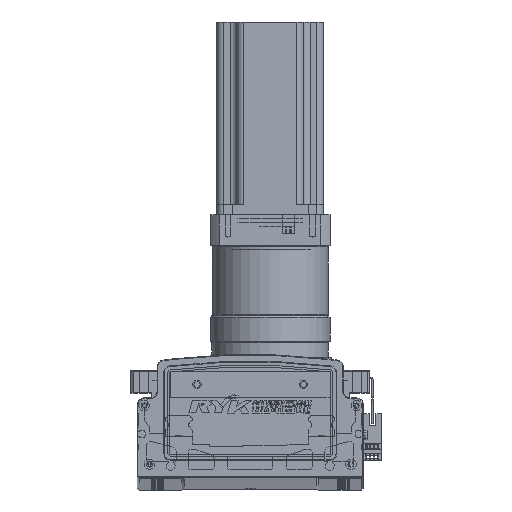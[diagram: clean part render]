
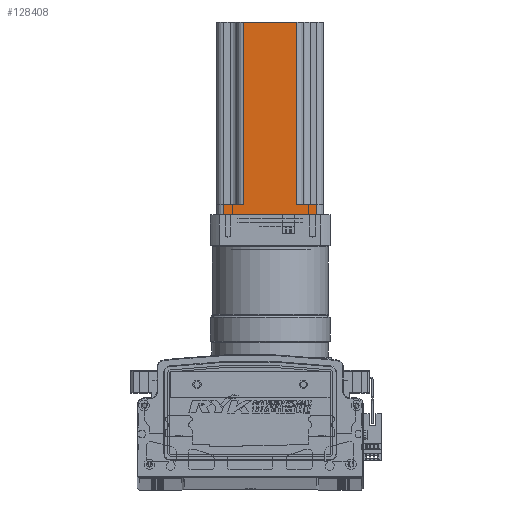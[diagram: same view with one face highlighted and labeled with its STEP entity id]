
A CAD part, top view. The second image highlights one B-rep face of the part: STEP entity #128408.
In plain terms, the highlighted planar face has unit normal (0, 0, 1) as drawn and (0, -1, 0) by its records, which use the part's own axes.
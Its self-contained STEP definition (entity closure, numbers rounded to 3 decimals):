
#11449 = VERTEX_POINT ( 'NONE', #118211 ) ;
#11697 = VERTEX_POINT ( 'NONE', #118336 ) ;
#11698 = VERTEX_POINT ( 'NONE', #118381 ) ;
#11711 = VERTEX_POINT ( 'NONE', #118412 ) ;
#11751 = VERTEX_POINT ( 'NONE', #118415 ) ;
#11757 = VERTEX_POINT ( 'NONE', #118440 ) ;
#11759 = VERTEX_POINT ( 'NONE', #118390 ) ;
#11764 = VERTEX_POINT ( 'NONE', #118441 ) ;
#22389 = EDGE_CURVE ( 'NONE', #11751, #11764, #133889, .T. ) ;
#22406 = EDGE_CURVE ( 'NONE', #11751, #11697, #112432, .T. ) ;
#22432 = EDGE_CURVE ( 'NONE', #11698, #11711, #112434, .T. ) ;
#22451 = EDGE_CURVE ( 'NONE', #11757, #11764, #112530, .T. ) ;
#22465 = EDGE_CURVE ( 'NONE', #11759, #11449, #112535, .T. ) ;
#22474 = EDGE_CURVE ( 'NONE', #11759, #11711, #112602, .T. ) ;
#22491 = EDGE_CURVE ( 'NONE', #11757, #11449, #112555, .T. ) ;
#22520 = EDGE_CURVE ( 'NONE', #11697, #11698, #112668, .T. ) ;
#43689 = FACE_OUTER_BOUND ( 'NONE', #60811, .T. ) ;
#45927 = AXIS2_PLACEMENT_3D ( 'NONE', #50218, #50166, #50190 ) ;
#50166 = DIRECTION ( 'NONE',  ( 0., 1., 0. ) ) ;
#50187 = PLANE ( 'NONE',  #45927 ) ;
#50190 = DIRECTION ( 'NONE',  ( -1., 0., 0. ) ) ;
#50218 = CARTESIAN_POINT ( 'NONE',  ( -87.587, -40.37, 145. ) ) ;
#60811 = EDGE_LOOP ( 'NONE', ( #78592, #78419, #78304, #78353, #78355, #78455, #78385, #78286 ) ) ;
#73937 = DIRECTION ( 'NONE',  ( 0., 0., 1. ) ) ;
#73950 = CARTESIAN_POINT ( 'NONE',  ( -12.587, -40.37, 145. ) ) ;
#74009 = DIRECTION ( 'NONE',  ( 0., 0., -1. ) ) ;
#74029 = CARTESIAN_POINT ( 'NONE',  ( -67.587, -40.37, 145. ) ) ;
#74049 = CARTESIAN_POINT ( 'NONE',  ( -7.587, -40.37, 8. ) ) ;
#74055 = DIRECTION ( 'NONE',  ( 0., 0., 1. ) ) ;
#74069 = DIRECTION ( 'NONE',  ( 1., 0., 0. ) ) ;
#74127 = CARTESIAN_POINT ( 'NONE',  ( -27.587, -40.37, 145. ) ) ;
#74146 = CARTESIAN_POINT ( 'NONE',  ( -87.587, -40.37, 145. ) ) ;
#74214 = DIRECTION ( 'NONE',  ( 1., 0., 0. ) ) ;
#74361 = CARTESIAN_POINT ( 'NONE',  ( -87.587, -40.37, 0. ) ) ;
#74402 = DIRECTION ( 'NONE',  ( 1., 0., 0. ) ) ;
#78286 = ORIENTED_EDGE ( 'NONE', *, *, #22451, .T. ) ;
#78304 = ORIENTED_EDGE ( 'NONE', *, *, #22520, .T. ) ;
#78353 = ORIENTED_EDGE ( 'NONE', *, *, #22432, .T. ) ;
#78355 = ORIENTED_EDGE ( 'NONE', *, *, #22474, .F. ) ;
#78385 = ORIENTED_EDGE ( 'NONE', *, *, #22491, .F. ) ;
#78419 = ORIENTED_EDGE ( 'NONE', *, *, #22406, .T. ) ;
#78455 = ORIENTED_EDGE ( 'NONE', *, *, #22465, .T. ) ;
#78592 = ORIENTED_EDGE ( 'NONE', *, *, #22389, .F. ) ;
#112420 = VECTOR ( 'NONE', #73937, 1000. ) ;
#112432 = LINE ( 'NONE', #119158, #112438 ) ;
#112434 = LINE ( 'NONE', #73950, #112420 ) ;
#112438 = VECTOR ( 'NONE', #118787, 1000. ) ;
#112496 = VECTOR ( 'NONE', #74009, 1000. ) ;
#112517 = VECTOR ( 'NONE', #74055, 1000. ) ;
#112530 = LINE ( 'NONE', #74029, #112496 ) ;
#112535 = LINE ( 'NONE', #74127, #112517 ) ;
#112555 = LINE ( 'NONE', #74146, #112568 ) ;
#112568 = VECTOR ( 'NONE', #74214, 1000. ) ;
#112573 = VECTOR ( 'NONE', #74069, 1000. ) ;
#112602 = LINE ( 'NONE', #74049, #112573 ) ;
#112637 = VECTOR ( 'NONE', #74402, 1000. ) ;
#112668 = LINE ( 'NONE', #74361, #112637 ) ;
#118211 = CARTESIAN_POINT ( 'NONE',  ( -27.587, -40.37, 145. ) ) ;
#118336 = CARTESIAN_POINT ( 'NONE',  ( -82.587, -40.37, 0. ) ) ;
#118381 = CARTESIAN_POINT ( 'NONE',  ( -12.587, -40.37, 0. ) ) ;
#118390 = CARTESIAN_POINT ( 'NONE',  ( -27.587, -40.37, 8. ) ) ;
#118412 = CARTESIAN_POINT ( 'NONE',  ( -12.587, -40.37, 8. ) ) ;
#118415 = CARTESIAN_POINT ( 'NONE',  ( -82.587, -40.37, 8. ) ) ;
#118440 = CARTESIAN_POINT ( 'NONE',  ( -67.587, -40.37, 145. ) ) ;
#118441 = CARTESIAN_POINT ( 'NONE',  ( -67.587, -40.37, 8. ) ) ;
#118787 = DIRECTION ( 'NONE',  ( 0., 0., -1. ) ) ;
#119089 = CARTESIAN_POINT ( 'NONE',  ( -87.587, -40.37, 8. ) ) ;
#119095 = DIRECTION ( 'NONE',  ( 1., 0., 0. ) ) ;
#119158 = CARTESIAN_POINT ( 'NONE',  ( -82.587, -40.37, 145. ) ) ;
#128408 = ADVANCED_FACE ( 'NONE', ( #43689 ), #50187, .F. ) ;
#133889 = LINE ( 'NONE', #119089, #133955 ) ;
#133955 = VECTOR ( 'NONE', #119095, 1000. ) ;
